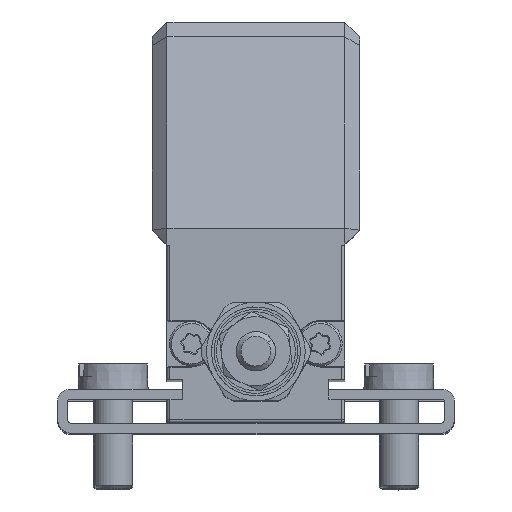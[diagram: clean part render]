
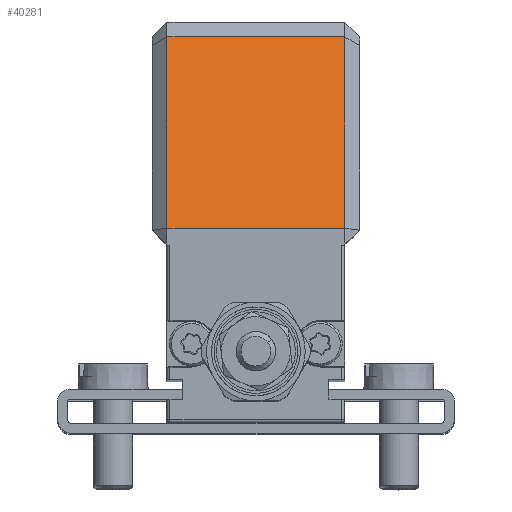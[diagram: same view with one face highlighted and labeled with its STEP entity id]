
A CAD part, top view. The second image highlights one B-rep face of the part: STEP entity #40281.
In plain terms, the highlighted planar face has unit normal (0, 0.259, 0.966).
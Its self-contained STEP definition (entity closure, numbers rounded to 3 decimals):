
#8991 = CARTESIAN_POINT ( 'NONE',  ( -11.769, 11.45, 107.451 ) ) ;
#8992 = DIRECTION ( 'NONE',  ( 1., 0., 0. ) ) ;
#8993 = VECTOR ( 'NONE', #8992, 1000. ) ;
#8994 = CARTESIAN_POINT ( 'NONE',  ( -13.269, 11.45, 107.451 ) ) ;
#8995 = LINE ( 'NONE', #8994, #8993 ) ;
#8996 = CARTESIAN_POINT ( 'NONE',  ( 6.231, 11.45, 107.451 ) ) ;
#10156 = LINE ( 'NONE', #10212, #10211 ) ;
#10157 = DIRECTION ( 'NONE',  ( 0., -0.966, 0.259 ) ) ;
#10158 = DIRECTION ( 'NONE',  ( 0., 0.259, 0.966 ) ) ;
#10159 = CARTESIAN_POINT ( 'NONE',  ( -13.269, 11.45, 107.451 ) ) ;
#10160 = AXIS2_PLACEMENT_3D ( 'NONE', #10159, #10158, #10157 ) ;
#10161 = PLANE ( 'NONE',  #10160 ) ;
#10176 = FACE_OUTER_BOUND ( 'NONE', #40282, .T. ) ;
#10199 = DIRECTION ( 'NONE',  ( 0., 0.966, -0.259 ) ) ;
#10200 = VECTOR ( 'NONE', #10199, 1000. ) ;
#10201 = CARTESIAN_POINT ( 'NONE',  ( 6.231, 11.45, 107.451 ) ) ;
#10202 = LINE ( 'NONE', #10201, #10200 ) ;
#10204 = DIRECTION ( 'NONE',  ( 0., 0.966, -0.259 ) ) ;
#10205 = VECTOR ( 'NONE', #10204, 1000. ) ;
#10206 = CARTESIAN_POINT ( 'NONE',  ( -11.769, 11.45, 107.451 ) ) ;
#10207 = LINE ( 'NONE', #10206, #10205 ) ;
#10208 = CARTESIAN_POINT ( 'NONE',  ( 6.231, 30.85, 102.253 ) ) ;
#10209 = CARTESIAN_POINT ( 'NONE',  ( -11.769, 30.85, 102.253 ) ) ;
#10210 = DIRECTION ( 'NONE',  ( 1., 0., 0. ) ) ;
#10211 = VECTOR ( 'NONE', #10210, 1000. ) ;
#10212 = CARTESIAN_POINT ( 'NONE',  ( -13.269, 30.85, 102.253 ) ) ;
#39929 = VERTEX_POINT ( 'NONE', #8996 ) ;
#39931 = EDGE_CURVE ( 'NONE', #39932, #39929, #8995, .T. ) ;
#39932 = VERTEX_POINT ( 'NONE', #8991 ) ;
#40281 = ADVANCED_FACE ( 'NONE', ( #10176 ), #10161, .T. ) ;
#40282 = EDGE_LOOP ( 'NONE', ( #40283, #40287, #40289, #40290 ) ) ;
#40283 = ORIENTED_EDGE ( 'NONE', *, *, #40284, .F. ) ;
#40284 = EDGE_CURVE ( 'NONE', #40285, #40286, #10156, .T. ) ;
#40285 = VERTEX_POINT ( 'NONE', #10209 ) ;
#40286 = VERTEX_POINT ( 'NONE', #10208 ) ;
#40287 = ORIENTED_EDGE ( 'NONE', *, *, #40288, .F. ) ;
#40288 = EDGE_CURVE ( 'NONE', #39932, #40285, #10207, .T. ) ;
#40289 = ORIENTED_EDGE ( 'NONE', *, *, #39931, .T. ) ;
#40290 = ORIENTED_EDGE ( 'NONE', *, *, #40291, .T. ) ;
#40291 = EDGE_CURVE ( 'NONE', #39929, #40286, #10202, .T. ) ;
